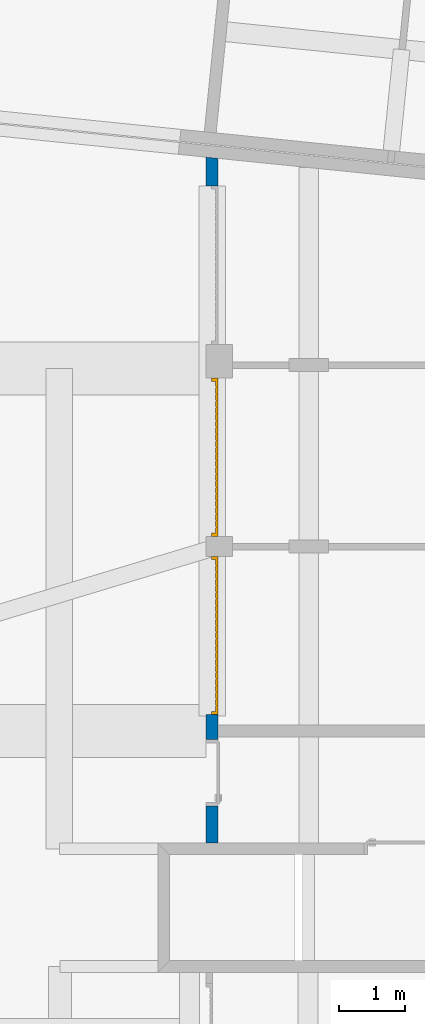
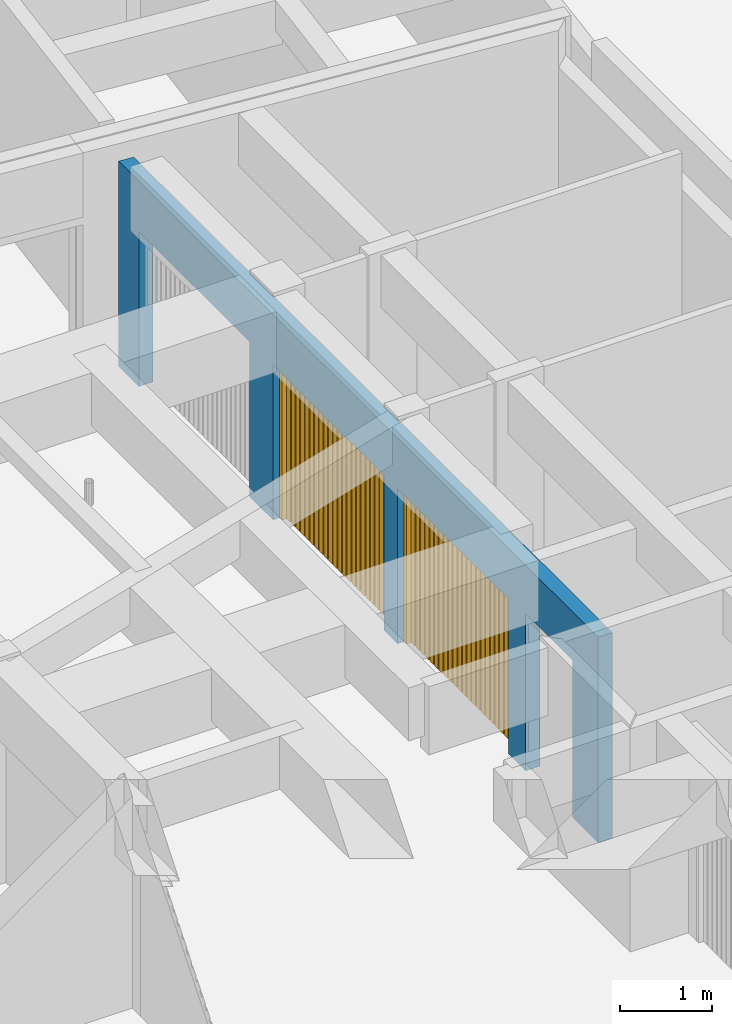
# One storey, part 13 of 41: 2 doors, 1 wall, 4 openings.
"""IFC2X3 building model written with IfcOpenShell, lengths in millimetres."""

from ifc_helpers import new_model, entity, si_unit, converted_unit, derived_unit, money_unit, direction, frame, origin_with_axes, origin_2d_with_axis, place, context, subcontext, project, spatial, polyline, rectangle, outline, extrude, faceted_brep, source, transform, mapped, material, layer, layer_set, layer_usage, type_object, element, fill, save


model = new_model("IFC2X3")

# Units and contexts
model_context = context("Model", 3, precision=0.01, world=origin_with_axes(), true_north=direction((0.0, 1.0)))
body_context = subcontext(model_context, "Body", "Model", "MODEL_VIEW")
ifc_project = project(units=[si_unit("LENGTHUNIT", "METRE", prefix="MILLI"), si_unit("AREAUNIT", "SQUARE_METRE"), si_unit("VOLUMEUNIT", "CUBIC_METRE"), converted_unit("PLANEANGLEUNIT", "DEGREE", entity("IfcPlaneAngleMeasure", 0.0174532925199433), si_unit("PLANEANGLEUNIT", "RADIAN"), dimensions=[0, 0, 0, 0, 0, 0, 0]), money_unit("USD"), converted_unit("TIMEUNIT", "Year", entity("IfcTimeMeasure", 31557600.0), si_unit("TIMEUNIT", "SECOND"), dimensions=[0, 0, 1, 0, 0, 0, 0]), si_unit("MASSUNIT", "GRAM", prefix="KILO"), si_unit("THERMODYNAMICTEMPERATUREUNIT", "DEGREE_CELSIUS"), si_unit("LUMINOUSINTENSITYUNIT", "LUMEN"), si_unit("ENERGYUNIT", "JOULE", prefix="MEGA"), derived_unit("THERMALCONDUCTANCEUNIT", [(si_unit("POWERUNIT", "WATT"), 1), (si_unit("LENGTHUNIT", "METRE"), -1), (si_unit("THERMODYNAMICTEMPERATUREUNIT", "KELVIN"), -1)]), derived_unit("SPECIFICHEATCAPACITYUNIT", [(si_unit("ENERGYUNIT", "JOULE"), 1), (si_unit("MASSUNIT", "GRAM", prefix="KILO"), -1), (si_unit("THERMODYNAMICTEMPERATUREUNIT", "KELVIN"), -1)]), derived_unit("MASSDENSITYUNIT", [(si_unit("MASSUNIT", "GRAM", prefix="KILO"), 1), (si_unit("VOLUMEUNIT", "CUBIC_METRE"), -1)])], contexts=[model_context])

# Site, building, storey
site_placement = place(None, origin_with_axes())
site = spatial("IfcSite", under=ifc_project, at=site_placement, Name="Site", CompositionType="ELEMENT")
building_placement = place(site_placement, origin_with_axes())
building = spatial("IfcBuilding", under=site, at=building_placement, Name="Bâtiment", CompositionType="ELEMENT")
storey_placement = place(building_placement, origin_with_axes())
storey = spatial("IfcBuildingStorey", under=building, at=storey_placement, Name="sousol", CompositionType="ELEMENT", Elevation=0.0)

# Wall, openings, doors
ifc_material = material(Name="Parpaing 314940890")
ifc_layer = layer(ifc_material, 180.0, ventilated="UNKNOWN")
ifc_layer_set = layer_set([ifc_layer], Name="Beton  18 0170347028")
ifc_layer_usage = layer_usage(ifc_layer_set, "AXIS2", "POSITIVE", 0.0)
wall_type = type_object("IfcWallType", Name="Beton  18 0170347028 180", PredefinedType="NOTDEFINED")
wall_placement = place(storey_placement, frame((2228014.233344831, -622046.8706017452, 0.0), z_axis=(0.0, 0.0, 1.0), x_axis=(0.0, -1.0, 0.0)))
wall = element("IfcWallStandardCase", 1, at=wall_placement, inside=storey, type_object=wall_type, material=ifc_layer_usage, Name="Mur-133", context=body_context, shape_type="SweptSolid", body=[
    extrude(outline(polyline([(0.0, 0.0), (10386.64407747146, 0.0), (10386.64407747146, 179.99999999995), (18.29231084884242, 179.99999999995), (0.0, 0.0)])), origin_with_axes(), (0.0, 0.0, 1.0), 2719.999999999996),
])
opening_1_placement = place(wall_placement, frame((7245.875069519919, -2.273736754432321e-10, 0.0), z_axis=(0.0, 0.0, 1.0), x_axis=(1.0, 0.0, 0.0)))
opening_1 = element("IfcOpeningElement", 2, at=opening_1_placement, cuts=wall, Name="Por-296", context=body_context, shape_type="SweptSolid", body=[
    extrude(rectangle(XDim=2399.999999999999, YDim=2050.0, at=origin_2d_with_axis()), frame((0.0, 179.99999999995, 1025.0), z_axis=(0.0, -1.0, 0.0), x_axis=(1.0, 0.0, 0.0)), (0.0, 0.0, -1.0), 180.0),
    extrude(rectangle(XDim=2399.999999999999, YDim=2050.0, at=origin_2d_with_axis()), frame((0.0, 179.99999999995, 1025.0), z_axis=(0.0, 1.0, 0.0), x_axis=(1.0, 0.0, 0.0)), (0.0, 0.0, -1.0), 180.0),
])
opening_2_placement = place(wall_placement, frame((1635.816724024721, -2.273736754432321e-10, 0.0), z_axis=(0.0, 0.0, 1.0), x_axis=(1.0, 0.0, 0.0)))
element("IfcOpeningElement", 3, at=opening_2_placement, cuts=wall, Name="Por-296", context=body_context, shape_type="SweptSolid", body=[
    extrude(rectangle(XDim=2400.000000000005, YDim=2050.0, at=origin_2d_with_axis()), frame((0.0, 179.99999999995, 1025.0), z_axis=(0.0, -1.0, 0.0), x_axis=(1.0, 0.0, 0.0)), (0.0, 0.0, -1.0), 180.0),
    extrude(rectangle(XDim=2400.000000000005, YDim=2050.0, at=origin_2d_with_axis()), frame((0.0, 179.99999999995, 1025.0), z_axis=(0.0, 1.0, 0.0), x_axis=(1.0, 0.0, 0.0)), (0.0, 0.0, -1.0), 180.0),
])
opening_3_placement = place(wall_placement, frame((4545.875069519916, -2.273736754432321e-10, 0.0), z_axis=(0.0, 0.0, 1.0), x_axis=(1.0, 0.0, 0.0)))
opening_3 = element("IfcOpeningElement", 4, at=opening_3_placement, cuts=wall, Name="Por-296", context=body_context, shape_type="SweptSolid", body=[
    extrude(rectangle(XDim=2400.000000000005, YDim=2050.0, at=origin_2d_with_axis()), frame((0.0, 179.99999999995, 1025.0), z_axis=(0.0, -1.0, 0.0), x_axis=(1.0, 0.0, 0.0)), (0.0, 0.0, -1.0), 180.0),
    extrude(rectangle(XDim=2400.000000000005, YDim=2050.0, at=origin_2d_with_axis()), frame((0.0, 179.99999999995, 1025.0), z_axis=(0.0, 1.0, 0.0), x_axis=(1.0, 0.0, 0.0)), (0.0, 0.0, -1.0), 180.0),
])
opening_4_placement = place(wall_placement, frame((9324.57442607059, -2.273736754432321e-10, 0.0), z_axis=(0.0, 0.0, 1.0), x_axis=(1.0, 0.0, 0.0)))
element("IfcOpeningElement", 5, at=opening_4_placement, cuts=wall, Name="Por-298", context=body_context, shape_type="SweptSolid", body=[
    extrude(rectangle(XDim=1010.00001192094, YDim=2080.0, at=origin_2d_with_axis()), frame((-5.960465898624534e-06, -179.99999999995, 1040.0), z_axis=(0.0, -1.0, 0.0), x_axis=(-1.0, 0.0, 0.0)), (0.0, 0.0, -1.0), 360.0),
])
door_style = type_object("IfcDoorStyle", Name="P_garage 1", ConstructionType="NOTDEFINED", OperationType="NOTDEFINED", ParameterTakesPrecedence=False, Sizeable=False)
shared_shape = source(origin_with_axes(), body_context, "Body", "Brep", [
    faceted_brep([(-1200.0, 0.0, 0.0), (-1150.0, 0.0, 0.0), (-1150.0, -100.0, 0.0), (-1200.0, -100.0, 0.0), (-1200.0, 0.0, 2050.0), (1200.0, 0.0, 2050.0), (1200.0, 0.0, 0.0), (1150.0, 0.0, 0.0), (1150.0, 0.0, 2000.0), (-1150.0, 0.0, 2000.0), (-1150.0, -100.0, 2000.0), (1150.0, -100.0, 2000.0), (1150.0, -100.0, 0.0), (1200.0, -100.0, 0.0), (1200.0, -100.0, 2050.0), (-1200.0, -100.0, 2050.0)], [[[0, 1, 2, 3]], [[0, 4, 5, 6, 7, 8, 9, 1]], [[1, 9, 10, 2]], [[3, 2, 10, 11, 12, 13, 14, 15]], [[4, 0, 3, 15]], [[5, 4, 15, 14]], [[6, 5, 14, 13]], [[7, 6, 13, 12]], [[8, 7, 12, 11]], [[9, 8, 11, 10]]]),
    faceted_brep([(-1069.130434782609, -40.0, 0.0), (-1069.130434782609, -26.66666666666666, 0.0), (-1069.130434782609, -26.66666666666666, 2000.0), (-1069.130434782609, -40.0, 2000.0), (-1150.0, -40.0, 0.0), (-1150.0, -26.66666666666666, 0.0), (-1150.0, -26.66666666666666, 2000.0), (-1150.0, -40.0, 2000.0)], [[[0, 1, 2, 3]], [[4, 5, 1, 0]], [[1, 5, 6, 2]], [[3, 2, 6, 7]], [[0, 3, 7, 4]], [[7, 6, 5, 4]]]),
    faceted_brep([(-968.2608695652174, -40.0, 0.0), (-968.2608695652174, -26.66666666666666, 0.0), (-968.2608695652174, -26.66666666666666, 2000.0), (-968.2608695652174, -40.0, 2000.0), (-1049.130434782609, -40.0, 0.0), (-1049.130434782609, -26.66666666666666, 0.0), (-1049.130434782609, -26.66666666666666, 2000.0), (-1049.130434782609, -40.0, 2000.0)], [[[0, 1, 2, 3]], [[4, 5, 1, 0]], [[1, 5, 6, 2]], [[3, 2, 6, 7]], [[0, 3, 7, 4]], [[7, 6, 5, 4]]]),
    faceted_brep([(-867.3913043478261, -40.0, 0.0), (-867.3913043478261, -26.66666666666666, 0.0), (-867.3913043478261, -26.66666666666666, 2000.0), (-867.3913043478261, -40.0, 2000.0), (-948.2608695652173, -40.0, 0.0), (-948.2608695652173, -26.66666666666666, 0.0), (-948.2608695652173, -26.66666666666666, 2000.0), (-948.2608695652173, -40.0, 2000.0)], [[[0, 1, 2, 3]], [[4, 5, 1, 0]], [[1, 5, 6, 2]], [[3, 2, 6, 7]], [[0, 3, 7, 4]], [[7, 6, 5, 4]]]),
    faceted_brep([(-766.5217391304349, -40.0, 0.0), (-766.5217391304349, -26.66666666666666, 0.0), (-766.5217391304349, -26.66666666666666, 2000.0), (-766.5217391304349, -40.0, 2000.0), (-847.391304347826, -40.0, 0.0), (-847.391304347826, -26.66666666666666, 0.0), (-847.391304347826, -26.66666666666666, 2000.0), (-847.391304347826, -40.0, 2000.0)], [[[0, 1, 2, 3]], [[4, 5, 1, 0]], [[1, 5, 6, 2]], [[3, 2, 6, 7]], [[0, 3, 7, 4]], [[7, 6, 5, 4]]]),
    faceted_brep([(-665.6521739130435, -40.0, 0.0), (-665.6521739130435, -26.66666666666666, 0.0), (-665.6521739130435, -26.66666666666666, 2000.0), (-665.6521739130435, -40.0, 2000.0), (-746.5217391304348, -40.0, 0.0), (-746.5217391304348, -26.66666666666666, 0.0), (-746.5217391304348, -26.66666666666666, 2000.0), (-746.5217391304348, -40.0, 2000.0)], [[[0, 1, 2, 3]], [[4, 5, 1, 0]], [[1, 5, 6, 2]], [[3, 2, 6, 7]], [[0, 3, 7, 4]], [[7, 6, 5, 4]]]),
    faceted_brep([(-564.7826086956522, -40.0, 0.0), (-564.7826086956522, -26.66666666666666, 0.0), (-564.7826086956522, -26.66666666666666, 2000.0), (-564.7826086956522, -40.0, 2000.0), (-645.6521739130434, -40.0, 0.0), (-645.6521739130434, -26.66666666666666, 0.0), (-645.6521739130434, -26.66666666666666, 2000.0), (-645.6521739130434, -40.0, 2000.0)], [[[0, 1, 2, 3]], [[4, 5, 1, 0]], [[1, 5, 6, 2]], [[3, 2, 6, 7]], [[0, 3, 7, 4]], [[7, 6, 5, 4]]]),
    faceted_brep([(-463.9130434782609, -40.0, 0.0), (-463.9130434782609, -26.66666666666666, 0.0), (-463.9130434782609, -26.66666666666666, 2000.0), (-463.9130434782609, -40.0, 2000.0), (-544.7826086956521, -40.0, 0.0), (-544.7826086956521, -26.66666666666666, 0.0), (-544.7826086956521, -26.66666666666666, 2000.0), (-544.7826086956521, -40.0, 2000.0)], [[[0, 1, 2, 3]], [[4, 5, 1, 0]], [[1, 5, 6, 2]], [[3, 2, 6, 7]], [[0, 3, 7, 4]], [[7, 6, 5, 4]]]),
    faceted_brep([(-363.0434782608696, -40.0, 0.0), (-363.0434782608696, -26.66666666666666, 0.0), (-363.0434782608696, -26.66666666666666, 2000.0), (-363.0434782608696, -40.0, 2000.0), (-443.9130434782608, -40.0, 0.0), (-443.9130434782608, -26.66666666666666, 0.0), (-443.9130434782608, -26.66666666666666, 2000.0), (-443.9130434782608, -40.0, 2000.0)], [[[0, 1, 2, 3]], [[4, 5, 1, 0]], [[1, 5, 6, 2]], [[3, 2, 6, 7]], [[0, 3, 7, 4]], [[7, 6, 5, 4]]]),
    faceted_brep([(-262.1739130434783, -40.0, 0.0), (-262.1739130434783, -26.66666666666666, 0.0), (-262.1739130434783, -26.66666666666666, 2000.0), (-262.1739130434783, -40.0, 2000.0), (-343.0434782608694, -40.0, 0.0), (-343.0434782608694, -26.66666666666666, 0.0), (-343.0434782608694, -26.66666666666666, 2000.0), (-343.0434782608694, -40.0, 2000.0)], [[[0, 1, 2, 3]], [[4, 5, 1, 0]], [[1, 5, 6, 2]], [[3, 2, 6, 7]], [[0, 3, 7, 4]], [[7, 6, 5, 4]]]),
    faceted_brep([(-161.3043478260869, -40.0, 0.0), (-161.3043478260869, -26.66666666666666, 0.0), (-161.3043478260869, -26.66666666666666, 2000.0), (-161.3043478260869, -40.0, 2000.0), (-242.1739130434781, -40.0, 0.0), (-242.1739130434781, -26.66666666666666, 0.0), (-242.1739130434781, -26.66666666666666, 2000.0), (-242.1739130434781, -40.0, 2000.0)], [[[0, 1, 2, 3]], [[4, 5, 1, 0]], [[1, 5, 6, 2]], [[3, 2, 6, 7]], [[0, 3, 7, 4]], [[7, 6, 5, 4]]]),
    faceted_brep([(-60.43478260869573, -40.0, 0.0), (-60.43478260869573, -26.66666666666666, 0.0), (-60.43478260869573, -26.66666666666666, 2000.0), (-60.43478260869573, -40.0, 2000.0), (-141.3043478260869, -40.0, 0.0), (-141.3043478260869, -26.66666666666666, 0.0), (-141.3043478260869, -26.66666666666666, 2000.0), (-141.3043478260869, -40.0, 2000.0)], [[[0, 1, 2, 3]], [[4, 5, 1, 0]], [[1, 5, 6, 2]], [[3, 2, 6, 7]], [[0, 3, 7, 4]], [[7, 6, 5, 4]]]),
    faceted_brep([(40.43478260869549, -40.0, 0.0), (40.43478260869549, -26.66666666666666, 0.0), (40.43478260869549, -26.66666666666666, 2000.0), (40.43478260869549, -40.0, 2000.0), (-40.43478260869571, -40.0, 0.0), (-40.43478260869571, -26.66666666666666, 0.0), (-40.43478260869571, -26.66666666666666, 2000.0), (-40.43478260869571, -40.0, 2000.0)], [[[0, 1, 2, 3]], [[4, 5, 1, 0]], [[1, 5, 6, 2]], [[3, 2, 6, 7]], [[0, 3, 7, 4]], [[7, 6, 5, 4]]]),
    faceted_brep([(141.3043478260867, -40.0, 0.0), (141.3043478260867, -26.66666666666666, 0.0), (141.3043478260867, -26.66666666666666, 2000.0), (141.3043478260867, -40.0, 2000.0), (60.4347826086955, -40.0, 0.0), (60.4347826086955, -26.66666666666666, 0.0), (60.4347826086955, -26.66666666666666, 2000.0), (60.4347826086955, -40.0, 2000.0)], [[[0, 1, 2, 3]], [[4, 5, 1, 0]], [[1, 5, 6, 2]], [[3, 2, 6, 7]], [[0, 3, 7, 4]], [[7, 6, 5, 4]]]),
    faceted_brep([(242.1739130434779, -40.0, 0.0), (242.1739130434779, -26.66666666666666, 0.0), (242.1739130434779, -26.66666666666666, 2000.0), (242.1739130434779, -40.0, 2000.0), (161.3043478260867, -40.0, 0.0), (161.3043478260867, -26.66666666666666, 0.0), (161.3043478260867, -26.66666666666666, 2000.0), (161.3043478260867, -40.0, 2000.0)], [[[0, 1, 2, 3]], [[4, 5, 1, 0]], [[1, 5, 6, 2]], [[3, 2, 6, 7]], [[0, 3, 7, 4]], [[7, 6, 5, 4]]]),
    faceted_brep([(343.0434782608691, -40.0, 0.0), (343.0434782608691, -26.66666666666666, 0.0), (343.0434782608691, -26.66666666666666, 2000.0), (343.0434782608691, -40.0, 2000.0), (262.1739130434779, -40.0, 0.0), (262.1739130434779, -26.66666666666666, 0.0), (262.1739130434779, -26.66666666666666, 2000.0), (262.1739130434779, -40.0, 2000.0)], [[[0, 1, 2, 3]], [[4, 5, 1, 0]], [[1, 5, 6, 2]], [[3, 2, 6, 7]], [[0, 3, 7, 4]], [[7, 6, 5, 4]]]),
    faceted_brep([(443.9130434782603, -40.0, 0.0), (443.9130434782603, -26.66666666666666, 0.0), (443.9130434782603, -26.66666666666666, 2000.0), (443.9130434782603, -40.0, 2000.0), (363.0434782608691, -40.0, 0.0), (363.0434782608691, -26.66666666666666, 0.0), (363.0434782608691, -26.66666666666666, 2000.0), (363.0434782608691, -40.0, 2000.0)], [[[0, 1, 2, 3]], [[4, 5, 1, 0]], [[1, 5, 6, 2]], [[3, 2, 6, 7]], [[0, 3, 7, 4]], [[7, 6, 5, 4]]]),
    faceted_brep([(544.7826086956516, -40.0, 0.0), (544.7826086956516, -26.66666666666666, 0.0), (544.7826086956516, -26.66666666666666, 2000.0), (544.7826086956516, -40.0, 2000.0), (463.9130434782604, -40.0, 0.0), (463.9130434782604, -26.66666666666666, 0.0), (463.9130434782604, -26.66666666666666, 2000.0), (463.9130434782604, -40.0, 2000.0)], [[[0, 1, 2, 3]], [[4, 5, 1, 0]], [[1, 5, 6, 2]], [[3, 2, 6, 7]], [[0, 3, 7, 4]], [[7, 6, 5, 4]]]),
    faceted_brep([(645.6521739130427, -40.0, 0.0), (645.6521739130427, -26.66666666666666, 0.0), (645.6521739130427, -26.66666666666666, 2000.0), (645.6521739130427, -40.0, 2000.0), (564.7826086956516, -40.0, 0.0), (564.7826086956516, -26.66666666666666, 0.0), (564.7826086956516, -26.66666666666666, 2000.0), (564.7826086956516, -40.0, 2000.0)], [[[0, 1, 2, 3]], [[4, 5, 1, 0]], [[1, 5, 6, 2]], [[3, 2, 6, 7]], [[0, 3, 7, 4]], [[7, 6, 5, 4]]]),
    faceted_brep([(746.521739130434, -40.0, 0.0), (746.521739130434, -26.66666666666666, 0.0), (746.521739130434, -26.66666666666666, 2000.0), (746.521739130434, -40.0, 2000.0), (665.6521739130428, -40.0, 0.0), (665.6521739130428, -26.66666666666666, 0.0), (665.6521739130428, -26.66666666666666, 2000.0), (665.6521739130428, -40.0, 2000.0)], [[[0, 1, 2, 3]], [[4, 5, 1, 0]], [[1, 5, 6, 2]], [[3, 2, 6, 7]], [[0, 3, 7, 4]], [[7, 6, 5, 4]]]),
    faceted_brep([(847.3913043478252, -40.0, 0.0), (847.3913043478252, -26.66666666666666, 0.0), (847.3913043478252, -26.66666666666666, 2000.0), (847.3913043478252, -40.0, 2000.0), (766.521739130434, -40.0, 0.0), (766.521739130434, -26.66666666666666, 0.0), (766.521739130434, -26.66666666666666, 2000.0), (766.521739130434, -40.0, 2000.0)], [[[0, 1, 2, 3]], [[4, 5, 1, 0]], [[1, 5, 6, 2]], [[3, 2, 6, 7]], [[0, 3, 7, 4]], [[7, 6, 5, 4]]]),
    faceted_brep([(948.2608695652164, -40.0, 0.0), (948.2608695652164, -26.66666666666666, 0.0), (948.2608695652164, -26.66666666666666, 2000.0), (948.2608695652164, -40.0, 2000.0), (867.3913043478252, -40.0, 0.0), (867.3913043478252, -26.66666666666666, 0.0), (867.3913043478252, -26.66666666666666, 2000.0), (867.3913043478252, -40.0, 2000.0)], [[[0, 1, 2, 3]], [[4, 5, 1, 0]], [[1, 5, 6, 2]], [[3, 2, 6, 7]], [[0, 3, 7, 4]], [[7, 6, 5, 4]]]),
    faceted_brep([(1049.130434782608, -40.0, 0.0), (1049.130434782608, -26.66666666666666, 0.0), (1049.130434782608, -26.66666666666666, 2000.0), (1049.130434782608, -40.0, 2000.0), (968.2608695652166, -40.0, 0.0), (968.2608695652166, -26.66666666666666, 0.0), (968.2608695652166, -26.66666666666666, 2000.0), (968.2608695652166, -40.0, 2000.0)], [[[0, 1, 2, 3]], [[4, 5, 1, 0]], [[1, 5, 6, 2]], [[3, 2, 6, 7]], [[0, 3, 7, 4]], [[7, 6, 5, 4]]]),
    faceted_brep([(1149.999999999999, -40.0, 0.0), (1149.999999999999, -26.66666666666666, 0.0), (1149.999999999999, -26.66666666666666, 2000.0), (1149.999999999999, -40.0, 2000.0), (1069.130434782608, -40.0, 0.0), (1069.130434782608, -26.66666666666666, 0.0), (1069.130434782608, -26.66666666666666, 2000.0), (1069.130434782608, -40.0, 2000.0)], [[[0, 1, 2, 3]], [[4, 5, 1, 0]], [[1, 5, 6, 2]], [[3, 2, 6, 7]], [[0, 3, 7, 4]], [[7, 6, 5, 4]]]),
    faceted_brep([(-1150.0, -26.66666666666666, 0.0), (-1150.0, 0.0, 0.0), (1150.0, 0.0, 0.0), (1150.0, -26.66666666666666, 0.0), (-1150.0, -26.66666666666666, 2000.0), (-1150.0, 0.0, 2000.0), (1150.0, 0.0, 2000.0), (1150.0, -26.66666666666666, 2000.0)], [[[0, 1, 2, 3]], [[4, 5, 1, 0]], [[1, 5, 6, 2]], [[3, 2, 6, 7]], [[0, 3, 7, 4]], [[7, 6, 5, 4]]]),
])
door_1_placement = place(opening_1_placement, frame((-1199.999999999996, -2.273736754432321e-10, 0.0), z_axis=(0.0, 0.0, 1.0), x_axis=(1.0, 0.0, 0.0)))
door_1 = element("IfcDoor", 6, at=door_1_placement, inside=storey, type_object=door_style, Name="Por-296", OverallHeight=2050.0, OverallWidth=2400.0, context=body_context, shape_type="MappedRepresentation", body=[
    mapped(shared_shape, transform((1200.000000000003, 179.99999999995, 0.0))),
])
fill(opening_1, door_1)
door_2_placement = place(opening_3_placement, frame((-1199.999999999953, -2.273736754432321e-10, 0.0), z_axis=(0.0, 0.0, 1.0), x_axis=(1.0, 0.0, 0.0)))
door_2 = element("IfcDoor", 7, at=door_2_placement, inside=storey, type_object=door_style, Name="Por-296", OverallHeight=2050.0, OverallWidth=2400.0, context=body_context, shape_type="MappedRepresentation", body=[
    mapped(shared_shape, transform((1200.000000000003, 179.99999999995, 0.0))),
])
fill(opening_3, door_2)

save(model, "model.ifc")
